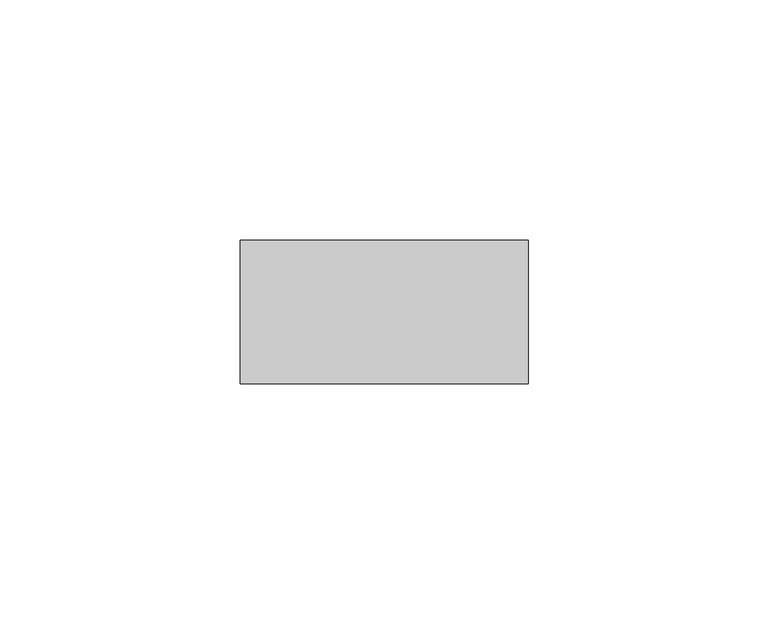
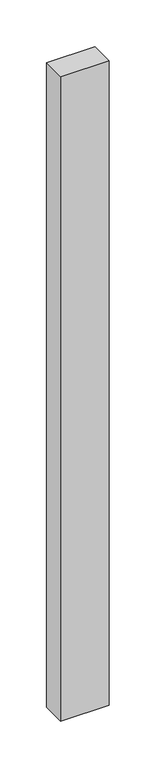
"""IFC4 building model written with IfcOpenShell, lengths in millimetres: member geometry, Прямоугольный импост : Квадрат 30 мм."""

from ifc_helpers import new_model, si_unit, frame, origin, place, context, project, spatial, polyline, outline, extrude, source, transform, mapped, element, save


def member_82ede6b6(model_context):
    return source(origin(), model_context, "Body", "SweptSolid", [
        extrude(outline(polyline([(30.0, 15.0), (30.0, -15.0), (-30.0, -15.0), (-30.0, 15.0), (30.0, 15.0)])), frame((0.0, 0.0, -840.25), z_axis=(0.0, 0.0, 1.0), x_axis=(1.0, 0.0, 0.0)), (0.0, 0.0, 1.0), 840.25),
    ])


if __name__ == "__main__":
    model = new_model("IFC4")
    model_context = context("Model", 3, world=origin())
    ifc_project = project(units=[si_unit("LENGTHUNIT", "METRE", prefix="MILLI")], contexts=[model_context])
    site = spatial("IfcSite", under=ifc_project)
    building = spatial("IfcBuilding", under=site)
    placement = place(None, origin())
    member_shape = member_82ede6b6(model_context)
    element("IfcMember", 1, ObjectType="Прямоугольный импост : Квадрат 30 мм", at=placement, inside=building, context=model_context, shape_type="MappedRepresentation", body=[
        mapped(member_shape, transform((0.0, 0.0, 0.0), x_axis=(1.0, 0.0, 0.0), y_axis=(0.0, 1.0, 0.0), z_axis=(0.0, 0.0, 1.0))),
    ])
    save(model, "model.ifc")
